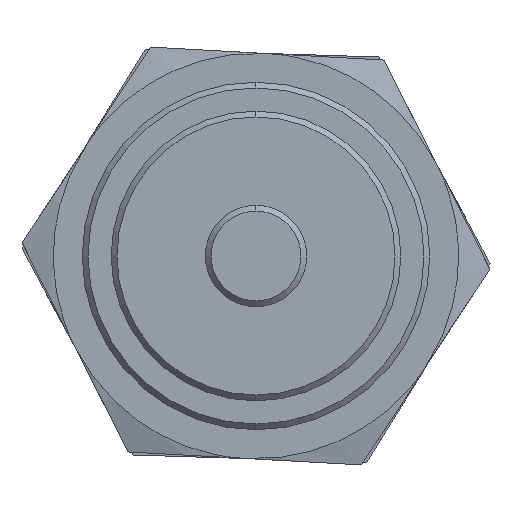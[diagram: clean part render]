
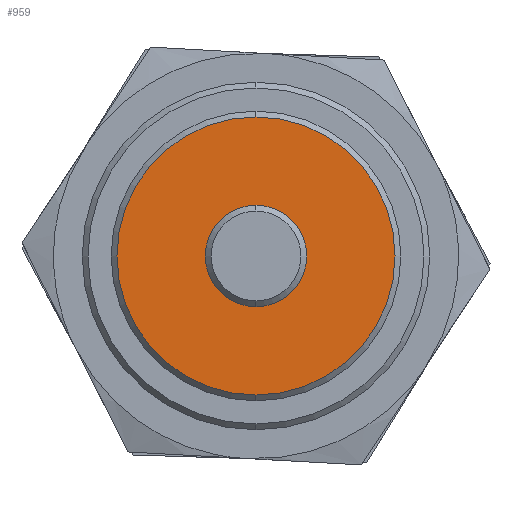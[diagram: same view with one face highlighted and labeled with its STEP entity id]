
A CAD part, left-side view. The second image highlights one B-rep face of the part: STEP entity #959.
In plain terms, the highlighted planar face has unit normal (-1, 0, 0).
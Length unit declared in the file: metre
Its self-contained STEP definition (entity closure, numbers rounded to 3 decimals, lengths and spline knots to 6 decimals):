
#10 = EDGE_LOOP ( 'NONE', ( #613, #859 ) ) ;
#57 = PLANE ( 'NONE',  #814 ) ;
#59 = DIRECTION ( 'NONE',  ( 0., 0., 1. ) ) ;
#78 = ORIENTED_EDGE ( 'NONE', *, *, #1231, .T. ) ;
#135 = CIRCLE ( 'NONE', #1346, 0.00175 ) ;
#142 = EDGE_LOOP ( 'NONE', ( #78, #939 ) ) ;
#206 = DIRECTION ( 'NONE',  ( -1., 0., 0. ) ) ;
#262 = CARTESIAN_POINT ( 'NONE',  ( 0.01, 0., 0. ) ) ;
#285 = CARTESIAN_POINT ( 'NONE',  ( 0.01, 0., 0. ) ) ;
#357 = AXIS2_PLACEMENT_3D ( 'NONE', #262, #1031, #364 ) ;
#364 = DIRECTION ( 'NONE',  ( 0., 0., 1. ) ) ;
#393 = DIRECTION ( 'NONE',  ( 0., 0., -1. ) ) ;
#413 = DIRECTION ( 'NONE',  ( 0., 0., -1. ) ) ;
#513 = DIRECTION ( 'NONE',  ( 1., 0., 0. ) ) ;
#536 = VERTEX_POINT ( 'NONE', #1069 ) ;
#582 = FACE_BOUND ( 'NONE', #10, .T. ) ;
#613 = ORIENTED_EDGE ( 'NONE', *, *, #929, .F. ) ;
#683 = CIRCLE ( 'NONE', #357, 0.00175 ) ;
#691 = DIRECTION ( 'NONE',  ( -1., 0., 0. ) ) ;
#753 = EDGE_CURVE ( 'NONE', #1306, #536, #1023, .T. ) ;
#808 = AXIS2_PLACEMENT_3D ( 'NONE', #285, #1059, #393 ) ;
#814 = AXIS2_PLACEMENT_3D ( 'NONE', #958, #513, #1307 ) ;
#859 = ORIENTED_EDGE ( 'NONE', *, *, #1166, .F. ) ;
#911 = CARTESIAN_POINT ( 'NONE',  ( 0.01, 0., 0.0048 ) ) ;
#929 = EDGE_CURVE ( 'NONE', #1078, #1326, #683, .T. ) ;
#939 = ORIENTED_EDGE ( 'NONE', *, *, #753, .T. ) ;
#958 = CARTESIAN_POINT ( 'NONE',  ( 0.01, -0.004858, 0.004858 ) ) ;
#959 = ADVANCED_FACE ( 'NONE', ( #582, #1115 ), #57, .F. ) ;
#1023 = CIRCLE ( 'NONE', #1284, 0.0048 ) ;
#1031 = DIRECTION ( 'NONE',  ( -1., 0., 0. ) ) ;
#1059 = DIRECTION ( 'NONE',  ( -1., 0., 0. ) ) ;
#1069 = CARTESIAN_POINT ( 'NONE',  ( 0.01, 0., -0.0048 ) ) ;
#1078 = VERTEX_POINT ( 'NONE', #1090 ) ;
#1090 = CARTESIAN_POINT ( 'NONE',  ( 0.01, 0., 0.00175 ) ) ;
#1115 = FACE_OUTER_BOUND ( 'NONE', #142, .T. ) ;
#1166 = EDGE_CURVE ( 'NONE', #1326, #1078, #135, .T. ) ;
#1231 = EDGE_CURVE ( 'NONE', #536, #1306, #1381, .T. ) ;
#1255 = CARTESIAN_POINT ( 'NONE',  ( 0.01, 0., -0.00175 ) ) ;
#1284 = AXIS2_PLACEMENT_3D ( 'NONE', #1347, #206, #413 ) ;
#1306 = VERTEX_POINT ( 'NONE', #911 ) ;
#1307 = DIRECTION ( 'NONE',  ( 0., 0., -1. ) ) ;
#1326 = VERTEX_POINT ( 'NONE', #1255 ) ;
#1346 = AXIS2_PLACEMENT_3D ( 'NONE', #1385, #691, #59 ) ;
#1347 = CARTESIAN_POINT ( 'NONE',  ( 0.01, 0., 0. ) ) ;
#1381 = CIRCLE ( 'NONE', #808, 0.0048 ) ;
#1385 = CARTESIAN_POINT ( 'NONE',  ( 0.01, 0., 0. ) ) ;
